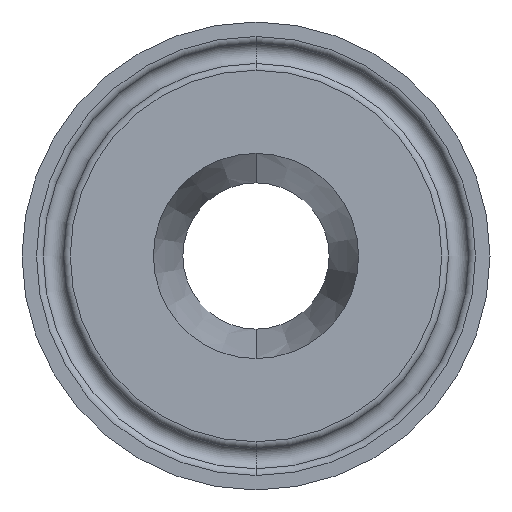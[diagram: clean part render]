
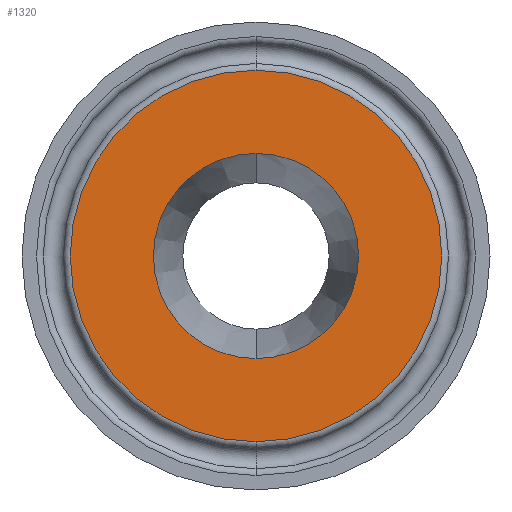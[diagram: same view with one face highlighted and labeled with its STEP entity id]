
A CAD part, left-side view. The second image highlights one B-rep face of the part: STEP entity #1320.
In plain terms, the highlighted planar face has unit normal (-1, 0, 0).
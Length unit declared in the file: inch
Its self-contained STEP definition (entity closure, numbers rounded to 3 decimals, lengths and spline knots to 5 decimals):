
#24 = DIRECTION ( 'NONE',  ( -1., 0., 0. ) ) ;
#158 = DIRECTION ( 'NONE',  ( -1., 0., 0. ) ) ;
#172 = CIRCLE ( 'NONE', #2062, 0.435 ) ;
#208 = VERTEX_POINT ( 'NONE', #2081 ) ;
#232 = DIRECTION ( 'NONE',  ( 0., 0., -1. ) ) ;
#255 = EDGE_CURVE ( 'NONE', #208, #599, #367, .T. ) ;
#263 = VERTEX_POINT ( 'NONE', #346 ) ;
#346 = CARTESIAN_POINT ( 'NONE',  ( -0.58896, 1.4179, 2.67415 ) ) ;
#356 = CARTESIAN_POINT ( 'NONE',  ( -0.58896, 1.4179, 1.88673 ) ) ;
#367 = CIRCLE ( 'NONE', #620, 0.435 ) ;
#470 = CIRCLE ( 'NONE', #1710, 0.78742 ) ;
#520 = DIRECTION ( 'NONE',  ( 0., 0., -1. ) ) ;
#529 = FACE_BOUND ( 'NONE', #1693, .T. ) ;
#594 = EDGE_CURVE ( 'NONE', #263, #1790, #2001, .T. ) ;
#599 = VERTEX_POINT ( 'NONE', #931 ) ;
#620 = AXIS2_PLACEMENT_3D ( 'NONE', #1491, #2162, #1867 ) ;
#663 = DIRECTION ( 'NONE',  ( 0., 0., -1. ) ) ;
#781 = CARTESIAN_POINT ( 'NONE',  ( -0.58896, 1.4179, 1.88673 ) ) ;
#854 = PLANE ( 'NONE',  #1489 ) ;
#916 = ORIENTED_EDGE ( 'NONE', *, *, #2193, .F. ) ;
#931 = CARTESIAN_POINT ( 'NONE',  ( -0.58896, 1.4179, 1.45173 ) ) ;
#1026 = CARTESIAN_POINT ( 'NONE',  ( -0.58896, 1.4179, 1.88673 ) ) ;
#1029 = CARTESIAN_POINT ( 'NONE',  ( -0.58896, 1.4179, 1.0993 ) ) ;
#1053 = DIRECTION ( 'NONE',  ( 0., 0., 1. ) ) ;
#1296 = EDGE_CURVE ( 'NONE', #1790, #263, #470, .T. ) ;
#1320 = ADVANCED_FACE ( 'NONE', ( #529, #1323 ), #854, .F. ) ;
#1323 = FACE_OUTER_BOUND ( 'NONE', #1350, .T. ) ;
#1350 = EDGE_LOOP ( 'NONE', ( #1367, #1770 ) ) ;
#1367 = ORIENTED_EDGE ( 'NONE', *, *, #1296, .T. ) ;
#1469 = ORIENTED_EDGE ( 'NONE', *, *, #255, .F. ) ;
#1489 = AXIS2_PLACEMENT_3D ( 'NONE', #356, #1879, #1053 ) ;
#1491 = CARTESIAN_POINT ( 'NONE',  ( -0.58896, 1.4179, 1.88673 ) ) ;
#1693 = EDGE_LOOP ( 'NONE', ( #916, #1469 ) ) ;
#1710 = AXIS2_PLACEMENT_3D ( 'NONE', #2163, #2020, #663 ) ;
#1770 = ORIENTED_EDGE ( 'NONE', *, *, #594, .T. ) ;
#1790 = VERTEX_POINT ( 'NONE', #1029 ) ;
#1867 = DIRECTION ( 'NONE',  ( 0., 0., -1. ) ) ;
#1879 = DIRECTION ( 'NONE',  ( 1., 0., 0. ) ) ;
#2001 = CIRCLE ( 'NONE', #2103, 0.78742 ) ;
#2020 = DIRECTION ( 'NONE',  ( -1., 0., 0. ) ) ;
#2062 = AXIS2_PLACEMENT_3D ( 'NONE', #781, #24, #232 ) ;
#2081 = CARTESIAN_POINT ( 'NONE',  ( -0.58896, 1.4179, 2.32173 ) ) ;
#2103 = AXIS2_PLACEMENT_3D ( 'NONE', #1026, #158, #520 ) ;
#2162 = DIRECTION ( 'NONE',  ( -1., 0., 0. ) ) ;
#2163 = CARTESIAN_POINT ( 'NONE',  ( -0.58896, 1.4179, 1.88673 ) ) ;
#2193 = EDGE_CURVE ( 'NONE', #599, #208, #172, .T. ) ;
